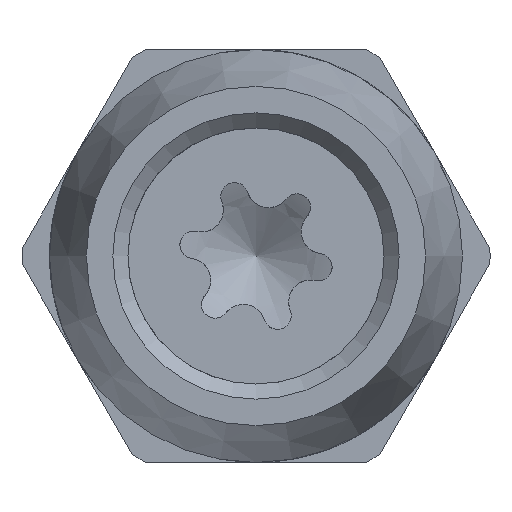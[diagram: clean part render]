
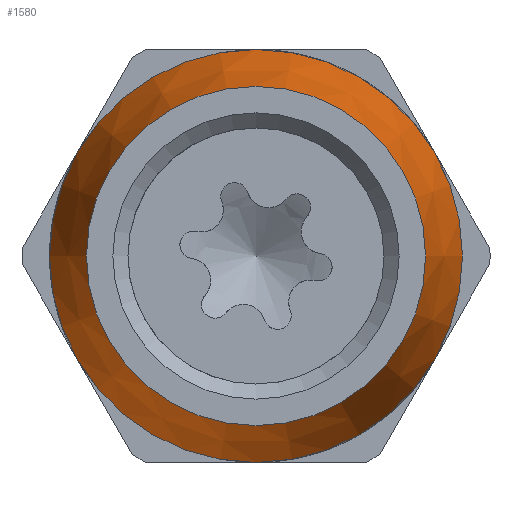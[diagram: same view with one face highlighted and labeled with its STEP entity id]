
A CAD part, front view. The second image highlights one B-rep face of the part: STEP entity #1580.
In plain terms, the highlighted conical face has half-angle 15 degrees and reference radius 6.83 mm.
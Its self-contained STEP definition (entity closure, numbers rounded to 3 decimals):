
#243=FACE_OUTER_BOUND('',#333,.T.);
#333=EDGE_LOOP('',(#1276,#1277,#1278,#1279,#1280,#1281));
#432=LINE('',#2937,#529);
#529=VECTOR('',#2044,6.83);
#617=CIRCLE('',#1724,6.16);
#618=CIRCLE('',#1725,6.16);
#619=CIRCLE('',#1727,7.5);
#620=CIRCLE('',#1728,7.5);
#753=VERTEX_POINT('',#2928);
#754=VERTEX_POINT('',#2929);
#755=VERTEX_POINT('',#2933);
#756=VERTEX_POINT('',#2934);
#947=EDGE_CURVE('',#753,#754,#617,.T.);
#948=EDGE_CURVE('',#754,#753,#618,.T.);
#949=EDGE_CURVE('',#755,#756,#619,.T.);
#950=EDGE_CURVE('',#756,#755,#620,.T.);
#951=EDGE_CURVE('',#756,#754,#432,.T.);
#1276=ORIENTED_EDGE('',*,*,#949,.F.);
#1277=ORIENTED_EDGE('',*,*,#950,.F.);
#1278=ORIENTED_EDGE('',*,*,#951,.T.);
#1279=ORIENTED_EDGE('',*,*,#948,.T.);
#1280=ORIENTED_EDGE('',*,*,#947,.T.);
#1281=ORIENTED_EDGE('',*,*,#951,.F.);
#1532=CONICAL_SURFACE('',#1726,6.83,0.262);
#1580=ADVANCED_FACE('',(#243),#1532,.T.);
#1724=AXIS2_PLACEMENT_3D('',#2930,#2034,#2035);
#1725=AXIS2_PLACEMENT_3D('',#2931,#2036,#2037);
#1726=AXIS2_PLACEMENT_3D('',#2932,#2038,#2039);
#1727=AXIS2_PLACEMENT_3D('',#2935,#2040,#2041);
#1728=AXIS2_PLACEMENT_3D('',#2936,#2042,#2043);
#2034=DIRECTION('center_axis',(0.,1.,0.));
#2035=DIRECTION('ref_axis',(-0.5,0.,0.866));
#2036=DIRECTION('center_axis',(0.,1.,0.));
#2037=DIRECTION('ref_axis',(-0.5,0.,0.866));
#2038=DIRECTION('center_axis',(0.,1.,0.));
#2039=DIRECTION('ref_axis',(-0.5,0.,0.866));
#2040=DIRECTION('center_axis',(0.,1.,0.));
#2041=DIRECTION('ref_axis',(-0.5,0.,0.866));
#2042=DIRECTION('center_axis',(0.,1.,0.));
#2043=DIRECTION('ref_axis',(-0.5,0.,0.866));
#2044=DIRECTION('',(-0.129,-0.966,0.224));
#2928=CARTESIAN_POINT('',(-3.08,-4.2,5.335));
#2929=CARTESIAN_POINT('',(3.08,-4.2,-5.335));
#2930=CARTESIAN_POINT('Origin',(0.,-4.2,0.));
#2931=CARTESIAN_POINT('Origin',(0.,-4.2,0.));
#2932=CARTESIAN_POINT('Origin',(0.,-1.7,0.));
#2933=CARTESIAN_POINT('',(-3.75,0.8,6.495));
#2934=CARTESIAN_POINT('',(3.75,0.8,-6.495));
#2935=CARTESIAN_POINT('Origin',(0.,0.8,
0.));
#2936=CARTESIAN_POINT('Origin',(0.,0.8,
0.));
#2937=CARTESIAN_POINT('',(3.415,-1.7,-5.915));
